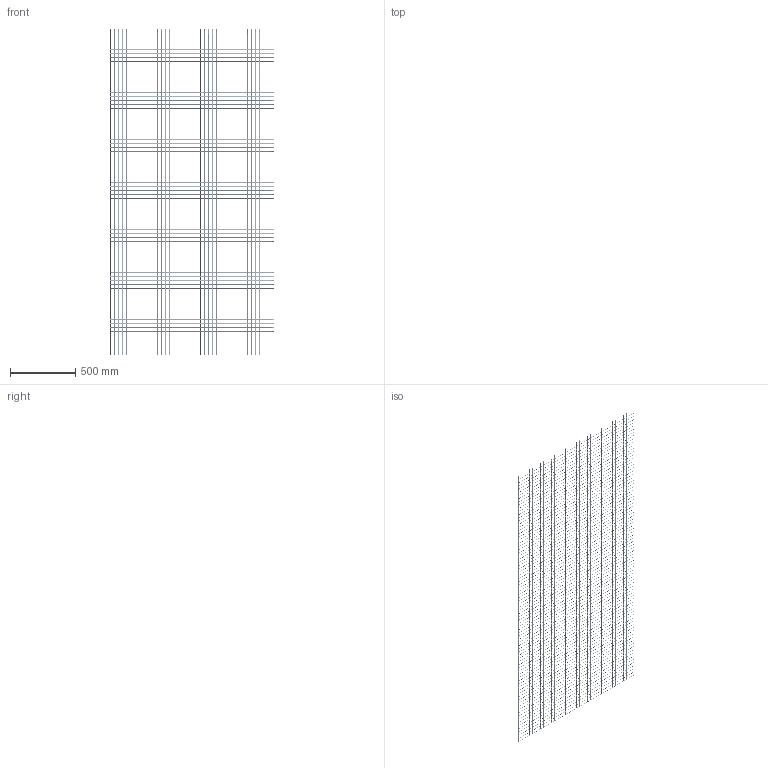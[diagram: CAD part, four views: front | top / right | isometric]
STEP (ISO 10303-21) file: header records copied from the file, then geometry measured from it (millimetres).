
FILE_DESCRIPTION (( 'STEP AP203' ), '1' );
FILE_NAME ('10182_GIT30303ST.STEP', '2019-06-07T07:23:44', ( '' ), ( '' ), 'SwSTEP 2.0', 'SolidWorks 2019', '' );
FILE_SCHEMA (( 'CONFIG_CONTROL_DESIGN' ));
Products named in the file (1): 10182_GIT30303ST
Bounding box: 1250 x 3 x 2500 mm (x, y, z)
Volume: 1412818.8 mm3; surface area: 1843693.6 mm2
Topology: 1 solids, 1 shells, 14444 faces, 42332 edges, 21166 vertices
Faces by surface type: cylinder 14194, plane 250
Entity records: 454793 total; most frequent: CARTESIAN_POINT 161607, ORIENTED_EDGE 84664, DIRECTION 43834, EDGE_CURVE 42332, VERTEX_POINT 21166, AXIS2_PLACEMENT_3D 14945, EDGE_LOOP 14444, FACE_OUTER_BOUND 14444
